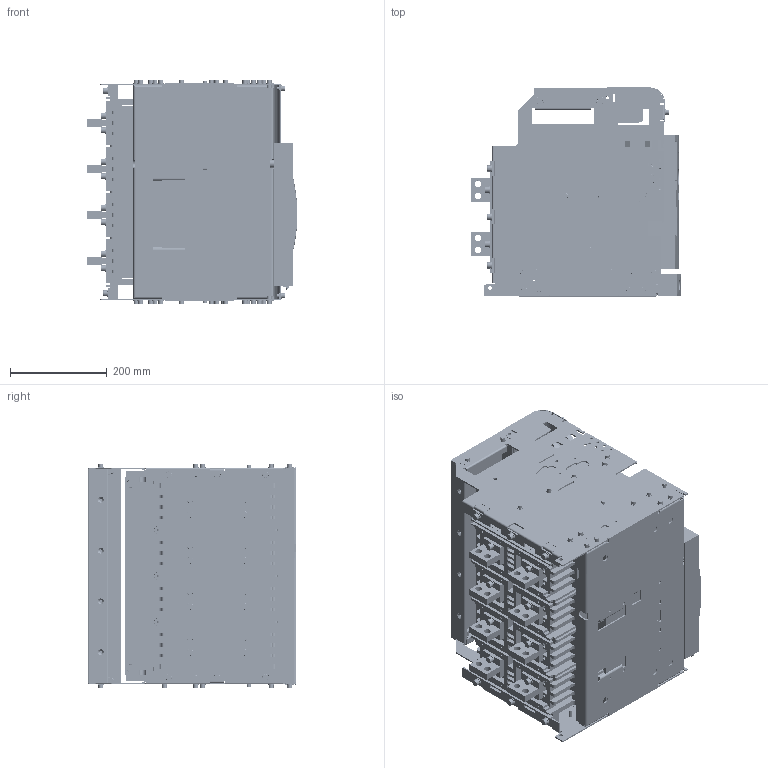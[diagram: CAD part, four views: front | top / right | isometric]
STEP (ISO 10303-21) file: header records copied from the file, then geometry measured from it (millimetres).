
FILE_DESCRIPTION (( 'STEP AP214' ), '1' );
FILE_NAME ('OptiMat A-S2-B-630-1600-4P-D-V îáëåã÷åííûé.STEP', '2023-07-31T05:49:30', ( '' ), ( '' ), 'SwSTEP 2.0', 'SolidWorks 2018', '' );
FILE_SCHEMA (( 'AUTOMOTIVE_DESIGN' ));
Length unit declared in the file: millimetre
Products named in the file (1): OptiMat A-S2-B-630-1600-4P-D-V îáëåã÷åííûé
Bounding box: 435.05 x 431.5 x 463.2 mm (x, y, z)
Volume: 47929715.1 mm3; surface area: 4657915 mm2
Topology: 178 solids, 246 shells, 10057 faces, 26580 edges, 17104 vertices
Faces by surface type: plane 5900, cylinder 3195, cone 543, torus 409, bspline 10
Entity records: 427053 total; most frequent: CARTESIAN_POINT 61773, DIRECTION 53687, ORIENTED_EDGE 52892, EDGE_CURVE 26446, LINE 17973, VECTOR 17973, AXIS2_PLACEMENT_3D 17857, VERTEX_POINT 17104
